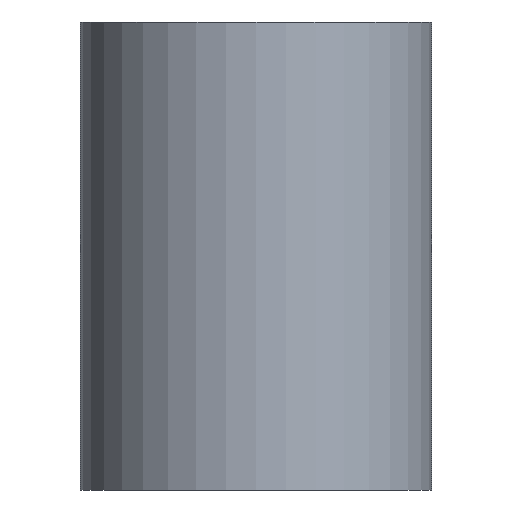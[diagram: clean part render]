
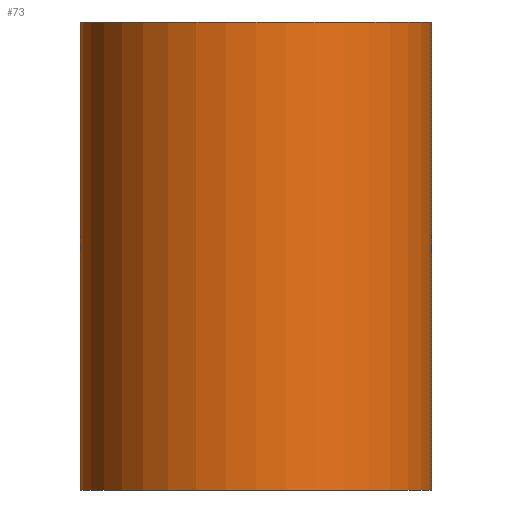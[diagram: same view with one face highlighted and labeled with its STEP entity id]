
A CAD part, front view. The second image highlights one B-rep face of the part: STEP entity #73.
In plain terms, the highlighted cylindrical face has radius 7.5 mm (diameter 15 mm), a full revolution.
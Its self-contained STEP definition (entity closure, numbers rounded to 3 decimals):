
#16=LINE('',#146,#18);
#18=VECTOR('',#126,7.5);
#20=CYLINDRICAL_SURFACE('',#101,7.5);
#25=FACE_OUTER_BOUND('',#30,.T.);
#30=EDGE_LOOP('',(#60,#61,#62,#63,#64,#65));
#33=CIRCLE('',#96,7.5);
#34=CIRCLE('',#97,7.5);
#37=CIRCLE('',#102,7.5);
#38=CIRCLE('',#103,7.5);
#39=VERTEX_POINT('',#131);
#40=VERTEX_POINT('',#132);
#43=VERTEX_POINT('',#142);
#44=VERTEX_POINT('',#143);
#45=EDGE_CURVE('',#39,#40,#33,.T.);
#46=EDGE_CURVE('',#40,#39,#34,.T.);
#50=EDGE_CURVE('',#43,#44,#37,.T.);
#51=EDGE_CURVE('',#44,#43,#38,.T.);
#52=EDGE_CURVE('',#44,#40,#16,.T.);
#60=ORIENTED_EDGE('',*,*,#50,.F.);
#61=ORIENTED_EDGE('',*,*,#51,.F.);
#62=ORIENTED_EDGE('',*,*,#52,.T.);
#63=ORIENTED_EDGE('',*,*,#45,.F.);
#64=ORIENTED_EDGE('',*,*,#46,.F.);
#65=ORIENTED_EDGE('',*,*,#52,.F.);
#73=ADVANCED_FACE('',(#25),#20,.T.);
#96=AXIS2_PLACEMENT_3D('',#133,#109,#110);
#97=AXIS2_PLACEMENT_3D('',#134,#111,#112);
#101=AXIS2_PLACEMENT_3D('',#141,#120,#121);
#102=AXIS2_PLACEMENT_3D('',#144,#122,#123);
#103=AXIS2_PLACEMENT_3D('',#145,#124,#125);
#109=DIRECTION('center_axis',(0.,0.,-1.));
#110=DIRECTION('ref_axis',(1.,0.,0.));
#111=DIRECTION('center_axis',(0.,0.,-1.));
#112=DIRECTION('ref_axis',(1.,0.,0.));
#120=DIRECTION('center_axis',(0.,0.,1.));
#121=DIRECTION('ref_axis',(1.,0.,0.));
#122=DIRECTION('center_axis',(0.,0.,1.));
#123=DIRECTION('ref_axis',(1.,0.,0.));
#124=DIRECTION('center_axis',(0.,0.,1.));
#125=DIRECTION('ref_axis',(1.,0.,0.));
#126=DIRECTION('',(0.,0.,-1.));
#131=CARTESIAN_POINT('',(7.5,0.,-10.));
#132=CARTESIAN_POINT('',(-7.5,0.,-10.));
#133=CARTESIAN_POINT('Origin',(0.,0.,-10.));
#134=CARTESIAN_POINT('Origin',(0.,0.,-10.));
#141=CARTESIAN_POINT('Origin',(0.,0.,0.));
#142=CARTESIAN_POINT('',(7.5,0.,10.));
#143=CARTESIAN_POINT('',(-7.5,0.,10.));
#144=CARTESIAN_POINT('Origin',(0.,0.,10.));
#145=CARTESIAN_POINT('Origin',(0.,0.,10.));
#146=CARTESIAN_POINT('',(-7.5,0.,0.));
